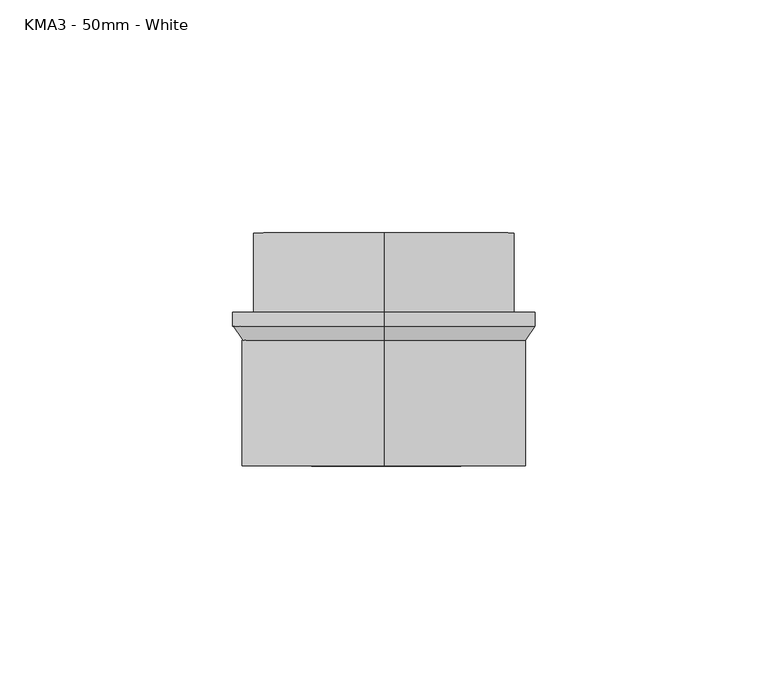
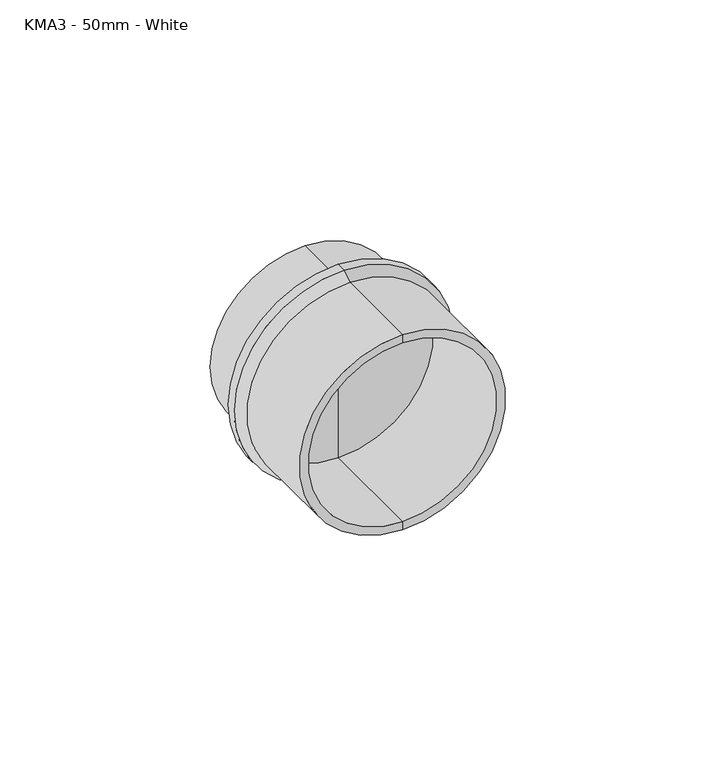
"""IFC4 building model written with IfcOpenShell, lengths in millimetres: pipe fitting geometry, MarleyPlumbingAndDrainage_PipeFitting_MaleIronAdaptor : KMA3 - 50mm - White."""

from ifc_helpers import new_model, si_unit, frame, origin, place, context, project, spatial, polyline, circle_curve, source, transform, mapped, element, save
from ifc_brep_helpers import plane_surface, cylinder_surface, revolved_surface, advanced_brep


def kma3_50mm_white_1b525f0e(model_context):
    return source(origin(), model_context, "Body", "AdvancedBrep", [
        advanced_brep(
        [(-14.8253818, 0.0, 0.0), (-14.8253818, 0.0, 28.0), (-14.8253818, 0.0, -28.0), (-14.8253818, 17.0, -28.0), (-14.8253818, 17.0, 28.0), (-14.8253818, 17.0, 0.0)],
        [
            (0, 1),
            (1, 2, circle_curve(frame((-14.8253818, 0.0, 0.0), z_axis=(0.0, -1.0, 0.0), x_axis=(0.0, 0.0, 1.0)), 28.0)),
            (2, 0),
            (2, 1, circle_curve(frame((-14.8253818, 0.0, 0.0), z_axis=(0.0, -1.0, 0.0), x_axis=(0.0, 0.0, 1.0)), 28.0)),
            (3, 4, circle_curve(frame((-14.8253818, 17.0, 0.0), z_axis=(0.0, 1.0, 0.0), x_axis=(0.0, 0.0, 1.0)), 28.0)),
            (4, 5),
            (5, 3),
            (4, 3, circle_curve(frame((-14.8253818, 17.0, 0.0), z_axis=(0.0, 1.0, 0.0), x_axis=(0.0, 0.0, 1.0)), 28.0)),
            (1, 4),
            (3, 2),
        ],
        [
            plane_surface(frame((-14.8253818, 0.0, 0.0), z_axis=(0.0, -1.0, 0.0), x_axis=(0.0, 0.0, 1.0))),
            plane_surface(frame((-14.8253818, 17.0, 0.0), z_axis=(0.0, 1.0, 0.0), x_axis=(0.0, 0.0, 1.0))),
            cylinder_surface(frame((-14.8253818, 1442.4208958, 0.0), z_axis=(0.0, -1.0, 0.0), x_axis=(0.0, 0.0, 1.0)), 28.0),
        ],
        [
            (0, [[1, 2, 3]]),
            (0, [[-3, 4, -1]]),
            (1, [[5, 6, 7]]),
            (1, [[8, -7, -6]]),
            (2, [[-2, 9, -5, 10]]),
            (2, [[-4, -10, -8, -9]]),
        ],
    ),
        advanced_brep(
        [(-14.8253818, -33.0, -28.0), (-14.8253818, -33.0, 28.0), (-14.8253818, -33.0, 30.5), (-14.8253818, -33.0, -30.5), (-14.8253818, 0.0, -28.0), (-14.8253818, 0.0, 28.0), (-14.8253818, 0.0, -32.5), (-14.8253818, 0.0, 32.5), (-14.8253818, -3.0, -32.5), (-14.8253818, -3.0, 32.5), (-14.8253818, -6.0, -30.5), (-14.8253818, -6.0, 30.5)],
        [
            (0, 1, circle_curve(frame((-14.8253818, -33.0, 0.0), z_axis=(0.0, 1.0, 0.0), x_axis=(0.0, 0.0, 1.0)), 28.0)),
            (1, 2),
            (2, 3, circle_curve(frame((-14.8253818, -33.0, 0.0), z_axis=(0.0, -1.0, 0.0), x_axis=(0.0, 0.0, 1.0)), 30.5)),
            (3, 0),
            (1, 0, circle_curve(frame((-14.8253818, -33.0, 0.0), z_axis=(0.0, 1.0, 0.0), x_axis=(0.0, 0.0, 1.0)), 28.0)),
            (3, 2, circle_curve(frame((-14.8253818, -33.0, 0.0), z_axis=(0.0, -1.0, 0.0), x_axis=(0.0, 0.0, 1.0)), 30.5)),
            (4, 5, circle_curve(frame((-14.8253818, 0.0, 0.0), z_axis=(0.0, 1.0, 0.0), x_axis=(0.0, 0.0, 1.0)), 28.0)),
            (5, 1),
            (0, 4),
            (5, 4, circle_curve(frame((-14.8253818, 0.0, 0.0), z_axis=(0.0, 1.0, 0.0), x_axis=(0.0, 0.0, 1.0)), 28.0)),
            (6, 7, circle_curve(frame((-14.8253818, 0.0, 0.0), z_axis=(0.0, 1.0, 0.0), x_axis=(0.0, 0.0, 1.0)), 32.5)),
            (7, 5),
            (4, 6),
            (7, 6, circle_curve(frame((-14.8253818, 0.0, 0.0), z_axis=(0.0, 1.0, 0.0), x_axis=(0.0, 0.0, 1.0)), 32.5)),
            (8, 9, circle_curve(frame((-14.8253818, -3.0, 0.0), z_axis=(0.0, 1.0, 0.0), x_axis=(0.0, 0.0, 1.0)), 32.5)),
            (9, 7),
            (6, 8),
            (9, 8, circle_curve(frame((-14.8253818, -3.0, 0.0), z_axis=(0.0, 1.0, 0.0), x_axis=(0.0, 0.0, 1.0)), 32.5)),
            (10, 11, circle_curve(frame((-14.8253818, -6.0, 0.0), z_axis=(0.0, 1.0, 0.0), x_axis=(0.0, 0.0, 1.0)), 30.5)),
            (11, 9),
            (8, 10),
            (11, 10, circle_curve(frame((-14.8253818, -6.0, 0.0), z_axis=(0.0, 1.0, 0.0), x_axis=(0.0, 0.0, 1.0)), 30.5)),
            (2, 11),
            (10, 3),
        ],
        [
            plane_surface(frame((-14.8253818, -33.0, 0.0), z_axis=(0.0, -1.0, 0.0), x_axis=(0.0, 0.0, 1.0))),
            revolved_surface(polyline([(-14.8253818, -33.0, 28.0), (-14.8253818, 0.0, 28.0)]), (-14.8253818, 1632.5437807, 0.0), (0.0, -1.0, 0.0)),
            plane_surface(frame((-14.8253818, 0.0, 0.0), z_axis=(0.0, 1.0, 0.0), x_axis=(0.0, 0.0, 1.0))),
            cylinder_surface(frame((-14.8253818, 1632.5437807, 0.0), z_axis=(0.0, -1.0, 0.0), x_axis=(0.0, 0.0, 1.0)), 32.5),
            revolved_surface(polyline([(-14.8253818, -3.0, 32.5), (-14.8253818, -6.0, 30.5)]), (-14.8253818, 1632.5437807, 0.0), (0.0, -1.0, 0.0)),
            cylinder_surface(frame((-14.8253818, 1632.5437807, 0.0), z_axis=(0.0, -1.0, 0.0), x_axis=(0.0, 0.0, 1.0)), 30.5),
        ],
        [
            (0, [[1, 2, 3, 4]]),
            (0, [[5, -4, 6, -2]]),
            (1, [[7, 8, -1, 9]]),
            (1, [[10, -9, -5, -8]]),
            (2, [[11, 12, -7, 13]]),
            (2, [[14, -13, -10, -12]]),
            (3, [[15, 16, -11, 17]]),
            (3, [[18, -17, -14, -16]]),
            (4, [[19, 20, -15, 21]]),
            (4, [[22, -21, -18, -20]]),
            (5, [[-3, 23, -19, 24]]),
            (5, [[-6, -24, -22, -23]]),
        ],
    ),
    ])


if __name__ == "__main__":
    model = new_model("IFC4")
    model_context = context("Model", 3, world=origin())
    ifc_project = project(units=[si_unit("LENGTHUNIT", "METRE", prefix="MILLI")], contexts=[model_context])
    site = spatial("IfcSite", under=ifc_project)
    building = spatial("IfcBuilding", under=site)
    placement = place(None, origin())
    kma3_50mm_white_shape = kma3_50mm_white_1b525f0e(model_context)
    element("IfcPipeFitting", 1, ObjectType="MarleyPlumbingAndDrainage_PipeFitting_MaleIronAdaptor : KMA3 - 50mm - White", at=placement, inside=building, context=model_context, shape_type="MappedRepresentation", body=[
        mapped(kma3_50mm_white_shape, transform((0.0, 0.0, 0.0), x_axis=(1.0, 0.0, 0.0), y_axis=(0.0, 1.0, 0.0), z_axis=(0.0, 0.0, 1.0))),
    ])
    save(model, "model.ifc")
